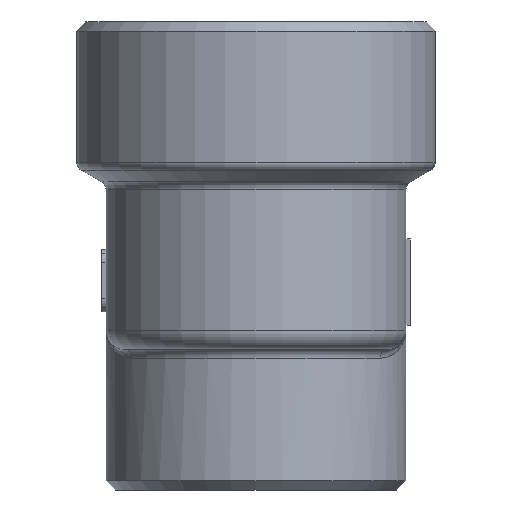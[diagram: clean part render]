
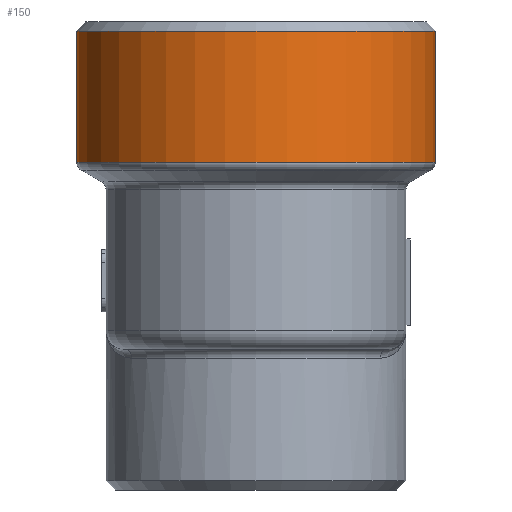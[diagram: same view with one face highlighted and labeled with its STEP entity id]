
A CAD part, front view. The second image highlights one B-rep face of the part: STEP entity #150.
In plain terms, the highlighted cylindrical face has radius 19.75 mm (diameter 39.5 mm), a full revolution.
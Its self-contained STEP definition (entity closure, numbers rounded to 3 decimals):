
#150=ADVANCED_FACE('',(#1175,#1177),#1179,.T.);
#1175=FACE_OUTER_BOUND('',#1176,.T.);
#1176=EDGE_LOOP('',(#2312));
#1177=FACE_OUTER_BOUND('',#1178,.T.);
#1178=EDGE_LOOP('',(#2313));
#1179=CYLINDRICAL_SURFACE('',#1180,19.75);
#1180=AXIS2_PLACEMENT_3D('',#1181,#1182,#1183);
#1181=CARTESIAN_POINT('',(0.,-30.,35.5));
#1182=DIRECTION('',(0.,0.,1.));
#1183=DIRECTION('',(0.,1.,0.));
#2312=ORIENTED_EDGE('',*,*,#2686,.F.);
#2313=ORIENTED_EDGE('',*,*,#2659,.F.);
#2659=EDGE_CURVE('',#3149,#3149,#3150,.F.);
#2686=EDGE_CURVE('',#3192,#3192,#3193,.T.);
#3149=VERTEX_POINT('',#4331);
#3150=CIRCLE('',#4332,19.75);
#3192=VERTEX_POINT('',#4432);
#3193=CIRCLE('',#4433,19.75);
#4331=CARTESIAN_POINT('',(0.,-10.25,36.077));
#4332=AXIS2_PLACEMENT_3D('',#4333,#4334,#4335);
#4333=CARTESIAN_POINT('',(0.,-30.,36.077));
#4334=DIRECTION('',(0.,0.,1.));
#4335=DIRECTION('',(0.,1.,0.));
#4432=CARTESIAN_POINT('',(0.,-10.25,50.5));
#4433=AXIS2_PLACEMENT_3D('',#4434,#4435,#4436);
#4434=CARTESIAN_POINT('',(0.,-30.,50.5));
#4435=DIRECTION('',(0.,0.,1.));
#4436=DIRECTION('',(0.,1.,0.));
